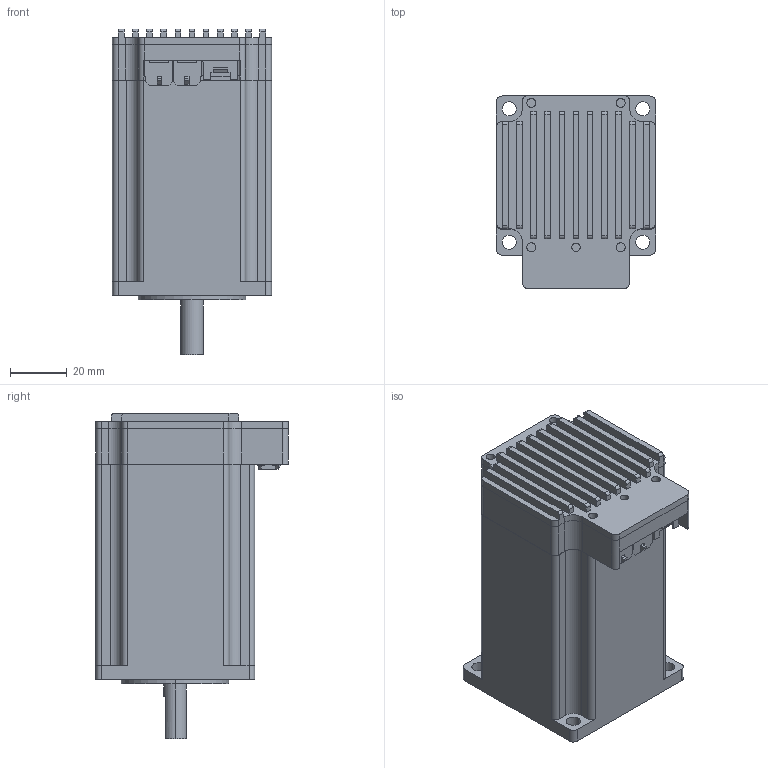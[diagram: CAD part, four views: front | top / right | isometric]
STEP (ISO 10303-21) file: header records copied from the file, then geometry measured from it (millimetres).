
FILE_DESCRIPTION (( 'STEP AP214' ), '1' );
FILE_NAME ('5776_FULL_STEP.STEP', '2023-04-05T01:22:42', ( 'shaun' ), ( '' ), 'SwSTEP 2.0', 'SolidWorks 2020', '' );
FILE_SCHEMA (( 'AUTOMOTIVE_DESIGN' ));
Length unit declared in the file: millimetre
Products named in the file (5): 57_B_LOWER_20230325; 57_B_UPPER_20230331; 5776_BODY; 57_V002_B_BOARD_SIMPLE; 5776_FULL_STEP
Assembly tree (4 placements, depth 2):
  5776_FULL_STEP
    57_B_LOWER_20230325
    57_B_UPPER_20230331
    57_V002_B_BOARD_SIMPLE
    5776_BODY
Bounding box: 56.2 x 68.1 x 115 mm (x, y, z)
Volume: 245678.8 mm3; surface area: 66021.6 mm2
Topology: 207 solids, 207 shells, 2530 faces, 5999 edges, 3936 vertices
Faces by surface type: plane 1329, cylinder 1193, cone 8
Entity records: 100283 total; most frequent: DIRECTION 13485, CARTESIAN_POINT 12483, ORIENTED_EDGE 11998, EDGE_CURVE 5999, AXIS2_PLACEMENT_3D 4952, VERTEX_POINT 3936, VECTOR 3581, LINE 3581
